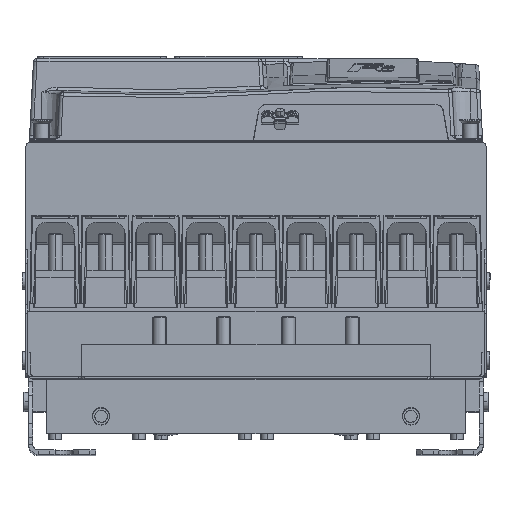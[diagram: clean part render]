
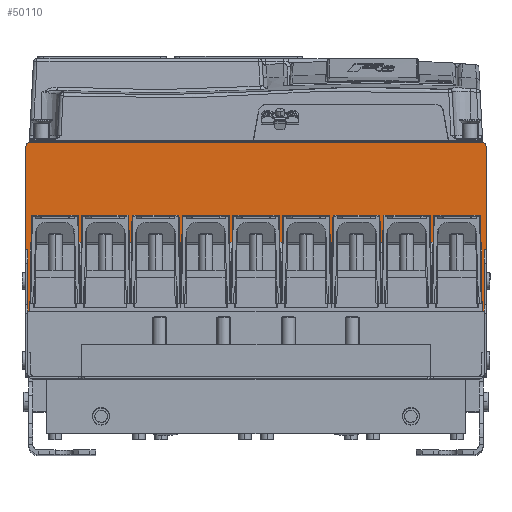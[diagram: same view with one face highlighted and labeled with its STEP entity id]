
A CAD part, top view. The second image highlights one B-rep face of the part: STEP entity #50110.
In plain terms, the highlighted planar face has unit normal (0, 0, 1).
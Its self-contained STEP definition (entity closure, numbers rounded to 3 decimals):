
#6 = LINE ( 'NONE', #32173, #88281 ) ;
#548 = CARTESIAN_POINT ( 'NONE',  ( 161.5, 0., 453. ) ) ;
#3061 = DIRECTION ( 'NONE',  ( 1., 0., 0. ) ) ;
#3488 = VERTEX_POINT ( 'NONE', #79917 ) ;
#3510 = ORIENTED_EDGE ( 'NONE', *, *, #51231, .F. ) ;
#4513 = VERTEX_POINT ( 'NONE', #26873 ) ;
#4900 = FACE_OUTER_BOUND ( 'NONE', #25576, .T. ) ;
#5375 = EDGE_CURVE ( 'NONE', #80797, #35385, #41281, .T. ) ;
#5924 = CARTESIAN_POINT ( 'NONE',  ( -163.5, -77., 453. ) ) ;
#7023 = VECTOR ( 'NONE', #25872, 1000. ) ;
#7938 = ORIENTED_EDGE ( 'NONE', *, *, #100095, .F. ) ;
#8396 = CARTESIAN_POINT ( 'NONE',  ( 163.5, -167.9, 453. ) ) ;
#8529 = DIRECTION ( 'NONE',  ( -1., 0., 0. ) ) ;
#9296 = CARTESIAN_POINT ( 'NONE',  ( -165.001, -77., 453. ) ) ;
#12630 = VECTOR ( 'NONE', #17891, 1000. ) ;
#16449 = VERTEX_POINT ( 'NONE', #50262 ) ;
#17891 = DIRECTION ( 'NONE',  ( 0., -1., 0. ) ) ;
#21138 = EDGE_CURVE ( 'NONE', #4513, #85879, #68566, .T. ) ;
#22367 = CARTESIAN_POINT ( 'NONE',  ( 163.5, -77., 453. ) ) ;
#23037 = CARTESIAN_POINT ( 'NONE',  ( 165., -3.5, 453. ) ) ;
#23092 = DIRECTION ( 'NONE',  ( 0., 0., -1. ) ) ;
#23819 = EDGE_CURVE ( 'NONE', #4513, #3488, #35057, .T. ) ;
#23842 = VECTOR ( 'NONE', #58157, 1000. ) ;
#24635 = VERTEX_POINT ( 'NONE', #5924 ) ;
#25576 = EDGE_LOOP ( 'NONE', ( #65466, #64682, #45674, #3510, #7938, #29368, #89306, #62332, #93769, #57400 ) ) ;
#25872 = DIRECTION ( 'NONE',  ( 1., 0., 0. ) ) ;
#26873 = CARTESIAN_POINT ( 'NONE',  ( -165., -3.5, 453. ) ) ;
#29368 = ORIENTED_EDGE ( 'NONE', *, *, #5375, .F. ) ;
#29563 = EDGE_CURVE ( 'NONE', #97473, #57449, #32661, .T. ) ;
#32173 = CARTESIAN_POINT ( 'NONE',  ( 165., -3.5, 453. ) ) ;
#32661 = CIRCLE ( 'NONE', #37653, 3.5 ) ;
#34656 = EDGE_CURVE ( 'NONE', #3488, #97473, #96885, .T. ) ;
#34904 = EDGE_CURVE ( 'NONE', #63687, #80797, #38176, .T. ) ;
#35057 = CIRCLE ( 'NONE', #83074, 3.5 ) ;
#35385 = VERTEX_POINT ( 'NONE', #8396 ) ;
#37146 = DIRECTION ( 'NONE',  ( 0., 1., 0. ) ) ;
#37653 = AXIS2_PLACEMENT_3D ( 'NONE', #53235, #23092, #37146 ) ;
#38176 = LINE ( 'NONE', #101435, #41694 ) ;
#41281 = LINE ( 'NONE', #88908, #12630 ) ;
#41694 = VECTOR ( 'NONE', #8529, 1000. ) ;
#45674 = ORIENTED_EDGE ( 'NONE', *, *, #70968, .T. ) ;
#45803 = DIRECTION ( 'NONE',  ( 0., -1., 0. ) ) ;
#47178 = VECTOR ( 'NONE', #61445, 1000. ) ;
#48128 = VECTOR ( 'NONE', #45803, 1000. ) ;
#50110 = ADVANCED_FACE ( 'NONE', ( #4900 ), #91469, .F. ) ;
#50262 = CARTESIAN_POINT ( 'NONE',  ( -163.5, -167.9, 453. ) ) ;
#50415 = CARTESIAN_POINT ( 'NONE',  ( -165., -77., 453. ) ) ;
#51231 = EDGE_CURVE ( 'NONE', #16449, #24635, #99093, .T. ) ;
#53235 = CARTESIAN_POINT ( 'NONE',  ( 161.5, -3.5, 453. ) ) ;
#56251 = DIRECTION ( 'NONE',  ( 0., 1., 0. ) ) ;
#56853 = VECTOR ( 'NONE', #3061, 1000. ) ;
#57400 = ORIENTED_EDGE ( 'NONE', *, *, #34656, .F. ) ;
#57449 = VERTEX_POINT ( 'NONE', #23037 ) ;
#58039 = LINE ( 'NONE', #9296, #56853 ) ;
#58157 = DIRECTION ( 'NONE',  ( 0., 1., 0. ) ) ;
#59678 = CARTESIAN_POINT ( 'NONE',  ( -163.5, 0., 453. ) ) ;
#60396 = DIRECTION ( 'NONE',  ( 0., 0., -1. ) ) ;
#61445 = DIRECTION ( 'NONE',  ( -1., 0., 0. ) ) ;
#62332 = ORIENTED_EDGE ( 'NONE', *, *, #70793, .T. ) ;
#62496 = DIRECTION ( 'NONE',  ( 0., 0., -1. ) ) ;
#63687 = VERTEX_POINT ( 'NONE', #93336 ) ;
#64682 = ORIENTED_EDGE ( 'NONE', *, *, #21138, .T. ) ;
#65466 = ORIENTED_EDGE ( 'NONE', *, *, #23819, .F. ) ;
#67678 = CARTESIAN_POINT ( 'NONE',  ( 0., -167.9, 453. ) ) ;
#68566 = LINE ( 'NONE', #84622, #48128 ) ;
#70793 = EDGE_CURVE ( 'NONE', #63687, #57449, #6, .T. ) ;
#70968 = EDGE_CURVE ( 'NONE', #85879, #24635, #58039, .T. ) ;
#75959 = CARTESIAN_POINT ( 'NONE',  ( 0., 0., 453. ) ) ;
#77519 = DIRECTION ( 'NONE',  ( 0., 1., 0. ) ) ;
#78831 = CARTESIAN_POINT ( 'NONE',  ( 0., 0., 453. ) ) ;
#79917 = CARTESIAN_POINT ( 'NONE',  ( -161.5, 0., 453. ) ) ;
#80797 = VERTEX_POINT ( 'NONE', #22367 ) ;
#83074 = AXIS2_PLACEMENT_3D ( 'NONE', #96138, #62496, #56251 ) ;
#84622 = CARTESIAN_POINT ( 'NONE',  ( -165., -3.5, 453. ) ) ;
#84771 = LINE ( 'NONE', #67678, #47178 ) ;
#85879 = VERTEX_POINT ( 'NONE', #50415 ) ;
#88281 = VECTOR ( 'NONE', #94380, 1000. ) ;
#88908 = CARTESIAN_POINT ( 'NONE',  ( 163.5, 0., 453. ) ) ;
#89306 = ORIENTED_EDGE ( 'NONE', *, *, #34904, .F. ) ;
#91469 = PLANE ( 'NONE',  #94900 ) ;
#93336 = CARTESIAN_POINT ( 'NONE',  ( 165., -77., 453. ) ) ;
#93769 = ORIENTED_EDGE ( 'NONE', *, *, #29563, .F. ) ;
#94380 = DIRECTION ( 'NONE',  ( 0., 1., 0. ) ) ;
#94900 = AXIS2_PLACEMENT_3D ( 'NONE', #75959, #60396, #77519 ) ;
#96138 = CARTESIAN_POINT ( 'NONE',  ( -161.5, -3.5, 453. ) ) ;
#96885 = LINE ( 'NONE', #78831, #7023 ) ;
#97473 = VERTEX_POINT ( 'NONE', #548 ) ;
#99093 = LINE ( 'NONE', #59678, #23842 ) ;
#100095 = EDGE_CURVE ( 'NONE', #35385, #16449, #84771, .T. ) ;
#101435 = CARTESIAN_POINT ( 'NONE',  ( 165.001, -77., 453. ) ) ;
